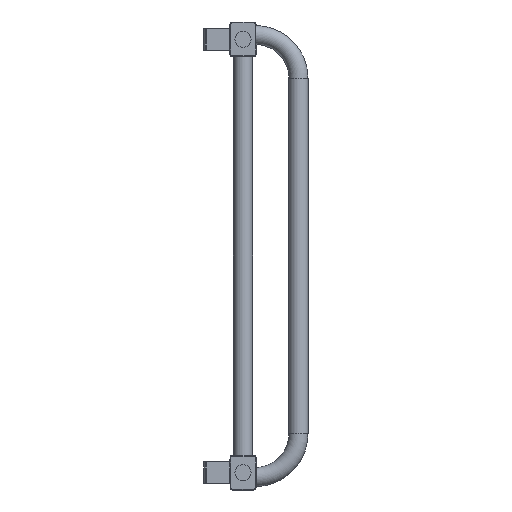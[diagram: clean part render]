
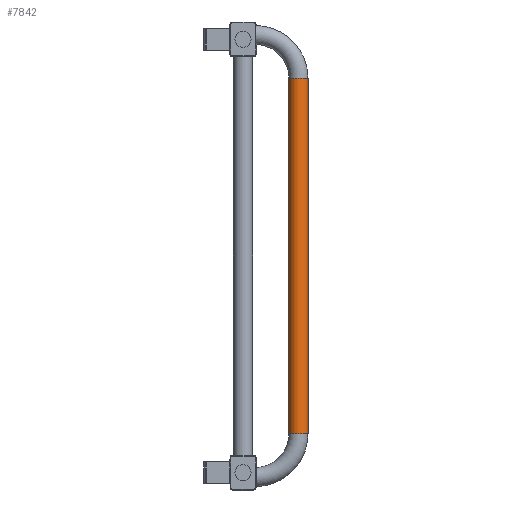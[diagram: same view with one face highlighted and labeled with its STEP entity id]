
A CAD part, left-side view. The second image highlights one B-rep face of the part: STEP entity #7842.
In plain terms, the highlighted cylindrical face has radius 11 mm (diameter 22 mm), a full revolution.
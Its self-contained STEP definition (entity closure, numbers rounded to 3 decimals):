
#7811=CARTESIAN_POINT('',(30.,-75.,64.99));
#7812=VERTEX_POINT('',#7811);
#7813=CARTESIAN_POINT('',(30.,-64.,64.99));
#7814=DIRECTION('',(0.0,0.0,1.0));
#7815=DIRECTION('',(0.0,1.0,0.0));
#7816=AXIS2_PLACEMENT_3D('',#7813,#7814,#7815);
#7817=CIRCLE('',#7816,11.0);
#7818=EDGE_CURVE('',#7812,#7812,#7817,.T.);
#7823=CARTESIAN_POINT('',(30.,-64.,475.01));
#7824=DIRECTION('',(0.,0.,-1.0));
#7825=DIRECTION('',(0.0,1.0,0.0));
#7826=AXIS2_PLACEMENT_3D('',#7823,#7824,#7825);
#7827=CYLINDRICAL_SURFACE('',#7826,11.0);
#7828=ORIENTED_EDGE('',*,*,#7818,.T.);
#7829=EDGE_LOOP('',(#7828));
#7830=FACE_OUTER_BOUND('',#7829,.T.);
#7831=CARTESIAN_POINT('',(30.,-75.0,475.01));
#7832=VERTEX_POINT('',#7831);
#7833=CARTESIAN_POINT('',(30.,-64.,475.01));
#7834=DIRECTION('',(0.0,0.0,1.0));
#7835=DIRECTION('',(0.0,1.0,0.0));
#7836=AXIS2_PLACEMENT_3D('',#7833,#7834,#7835);
#7837=CIRCLE('',#7836,11.0);
#7838=EDGE_CURVE('',#7832,#7832,#7837,.T.);
#7839=ORIENTED_EDGE('',*,*,#7838,.F.);
#7840=EDGE_LOOP('',(#7839));
#7841=FACE_BOUND('',#7840,.T.);
#7842=ADVANCED_FACE('',(#7830,#7841),#7827,.T.);
